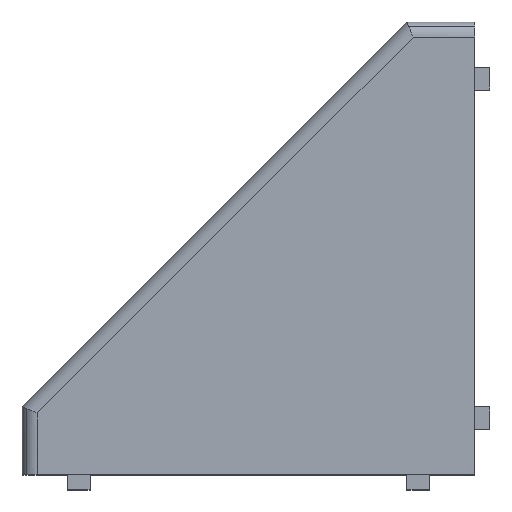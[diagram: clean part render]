
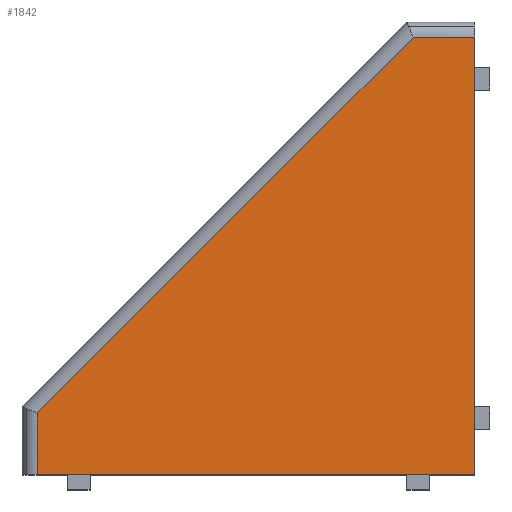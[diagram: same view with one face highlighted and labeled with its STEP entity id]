
A CAD part, top view. The second image highlights one B-rep face of the part: STEP entity #1842.
In plain terms, the highlighted planar face has unit normal (0, 0, 1).
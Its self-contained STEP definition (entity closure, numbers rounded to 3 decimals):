
#179 = EDGE_CURVE ( 'NONE', #438, #2895, #4016, .T. ) ;
#334 = EDGE_CURVE ( 'NONE', #2895, #1162, #1305, .T. ) ;
#438 = VERTEX_POINT ( 'NONE', #1681 ) ;
#455 = LINE ( 'NONE', #1707, #1777 ) ;
#486 = VERTEX_POINT ( 'NONE', #1074 ) ;
#638 = DIRECTION ( 'NONE',  ( -1., 0., 0. ) ) ;
#747 = ORIENTED_EDGE ( 'NONE', *, *, #334, .F. ) ;
#791 = PLANE ( 'NONE',  #2288 ) ;
#859 = ORIENTED_EDGE ( 'NONE', *, *, #1837, .F. ) ;
#976 = LINE ( 'NONE', #3420, #1843 ) ;
#1074 = CARTESIAN_POINT ( 'NONE',  ( -29., 0., 10. ) ) ;
#1162 = VERTEX_POINT ( 'NONE', #3518 ) ;
#1183 = DIRECTION ( 'NONE',  ( 0.707, 0.707, 0. ) ) ;
#1305 = LINE ( 'NONE', #2890, #1473 ) ;
#1388 = DIRECTION ( 'NONE',  ( 0., 0., 1. ) ) ;
#1473 = VECTOR ( 'NONE', #2545, 1000. ) ;
#1480 = EDGE_CURVE ( 'NONE', #486, #438, #1673, .T. ) ;
#1614 = DIRECTION ( 'NONE',  ( 0., 1., 0. ) ) ;
#1666 = DIRECTION ( 'NONE',  ( 1., 0., 0. ) ) ;
#1673 = LINE ( 'NONE', #3815, #3922 ) ;
#1681 = CARTESIAN_POINT ( 'NONE',  ( -29., 4.086, 10. ) ) ;
#1685 = DIRECTION ( 'NONE',  ( 0., -1., 0. ) ) ;
#1707 = CARTESIAN_POINT ( 'NONE',  ( 0., 0., 10. ) ) ;
#1715 = EDGE_CURVE ( 'NONE', #2852, #486, #976, .T. ) ;
#1777 = VECTOR ( 'NONE', #1685, 1000. ) ;
#1837 = EDGE_CURVE ( 'NONE', #1162, #2852, #455, .T. ) ;
#1842 = ADVANCED_FACE ( 'NONE', ( #3828 ), #791, .T. ) ;
#1843 = VECTOR ( 'NONE', #638, 1000. ) ;
#1973 = CARTESIAN_POINT ( 'NONE',  ( -11.586, 11.586, 10. ) ) ;
#2288 = AXIS2_PLACEMENT_3D ( 'NONE', #1973, #1388, #1666 ) ;
#2398 = VECTOR ( 'NONE', #1183, 1000. ) ;
#2470 = ORIENTED_EDGE ( 'NONE', *, *, #179, .F. ) ;
#2545 = DIRECTION ( 'NONE',  ( 1., 0., 0. ) ) ;
#2628 = ORIENTED_EDGE ( 'NONE', *, *, #1480, .F. ) ;
#2718 = CARTESIAN_POINT ( 'NONE',  ( -4.086, 29., 10. ) ) ;
#2852 = VERTEX_POINT ( 'NONE', #3231 ) ;
#2890 = CARTESIAN_POINT ( 'NONE',  ( -8.043, 29., 10. ) ) ;
#2895 = VERTEX_POINT ( 'NONE', #2718 ) ;
#3231 = CARTESIAN_POINT ( 'NONE',  ( 0., 0., 10. ) ) ;
#3398 = CARTESIAN_POINT ( 'NONE',  ( -22.918, 10.168, 10. ) ) ;
#3420 = CARTESIAN_POINT ( 'NONE',  ( -30., 0., 10. ) ) ;
#3518 = CARTESIAN_POINT ( 'NONE',  ( 0., 29., 10. ) ) ;
#3815 = CARTESIAN_POINT ( 'NONE',  ( -29., 5.793, 10. ) ) ;
#3828 = FACE_OUTER_BOUND ( 'NONE', #3966, .T. ) ;
#3860 = ORIENTED_EDGE ( 'NONE', *, *, #1715, .F. ) ;
#3922 = VECTOR ( 'NONE', #1614, 1000. ) ;
#3966 = EDGE_LOOP ( 'NONE', ( #2628, #3860, #859, #747, #2470 ) ) ;
#4016 = LINE ( 'NONE', #3398, #2398 ) ;
